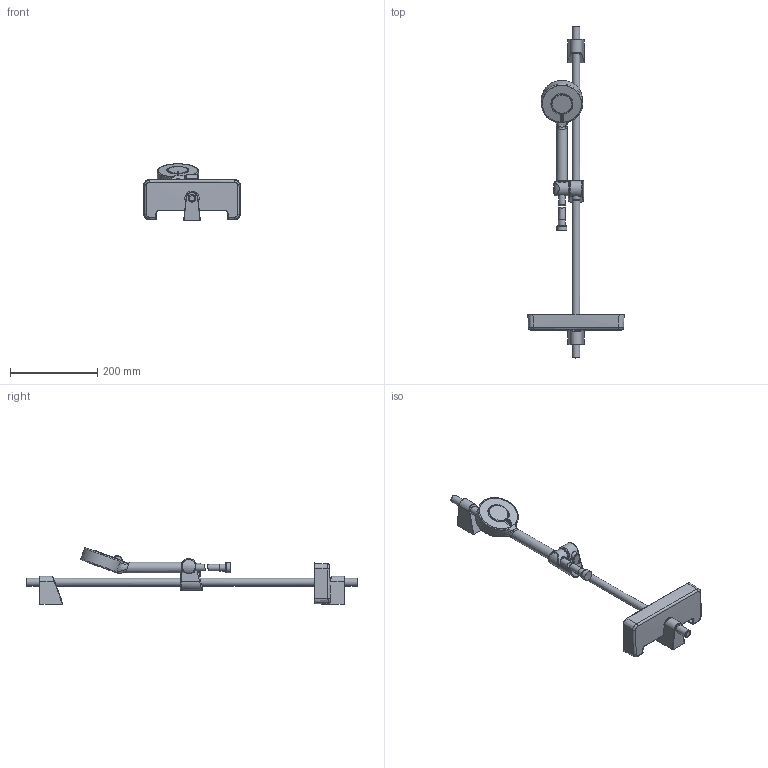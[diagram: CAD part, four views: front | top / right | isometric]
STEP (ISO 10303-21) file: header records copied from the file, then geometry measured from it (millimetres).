
FILE_DESCRIPTION (( 'STEP AP203' ), '1' );
FILE_NAME ('544(2016)+44780133.STEP', '2017-03-09T05:55:14', ( '' ), ( '' ), 'SwSTEP 2.0', 'SolidWorks 2016', '' );
FILE_SCHEMA (( 'CONFIG_CONTROL_DESIGN' ));
Length unit declared in the file: millimetre
Products named in the file (1): 544(2016)+44780133
Bounding box: 221.91 x 762.76 x 129.64 mm (x, y, z)
Volume: 862799.8 mm3; surface area: 179201.8 mm2
Topology: 4 solids, 4 shells, 307 faces, 736 edges, 452 vertices
Faces by surface type: bspline 186, cylinder 43, plane 42, torus 27, cone 6, sphere 3
Full cylindrical faces by diameter (mm): 15 x2, 16.1 x1, 17.8 x4, 21 x1, 22.6 x1, 22.95 x1, 90 x1
Entity records: 23511 total; most frequent: CARTESIAN_POINT 18120, ORIENTED_EDGE 1388, EDGE_CURVE 694, DIRECTION 656, VERTEX_POINT 435, B_SPLINE_CURVE_WITH_KNOTS 378, EDGE_LOOP 345, FACE_OUTER_BOUND 325
